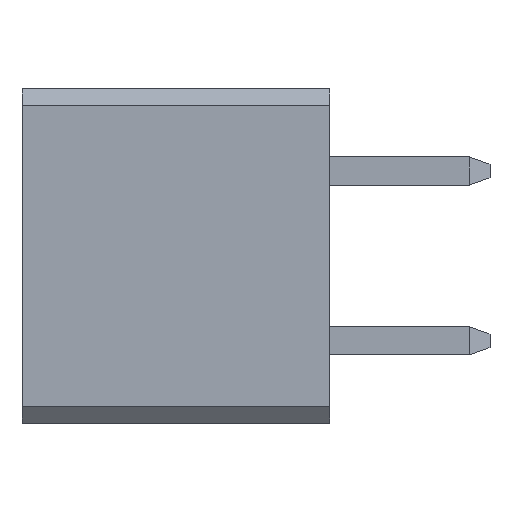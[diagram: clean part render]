
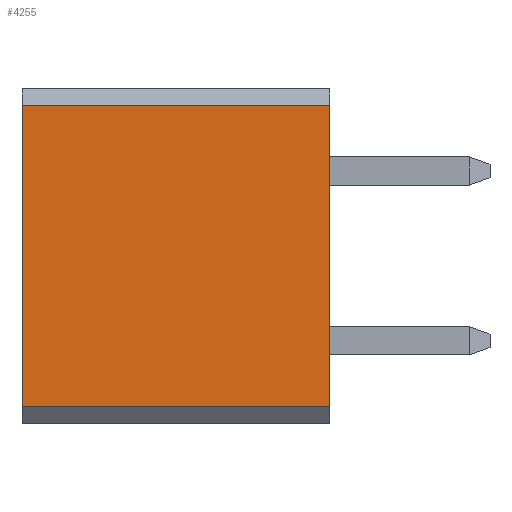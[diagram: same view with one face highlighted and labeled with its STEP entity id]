
A CAD part, left-side view. The second image highlights one B-rep face of the part: STEP entity #4255.
In plain terms, the highlighted planar face has unit normal (-1, 0, 0).
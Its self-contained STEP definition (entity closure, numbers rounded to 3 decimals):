
#2 = CARTESIAN_POINT ( 'NONE',  ( 24.614, 7.525, -2.501 ) ) ;
#31 = VECTOR ( 'NONE', #2021, 1000. ) ;
#125 = PLANE ( 'NONE',  #1885 ) ;
#231 = ORIENTED_EDGE ( 'NONE', *, *, #3540, .F. ) ;
#512 = ORIENTED_EDGE ( 'NONE', *, *, #2442, .T. ) ;
#642 = VERTEX_POINT ( 'NONE', #3342 ) ;
#985 = CARTESIAN_POINT ( 'NONE',  ( 24.614, 7.525, -2.251 ) ) ;
#1012 = LINE ( 'NONE', #2252, #1554 ) ;
#1113 = ORIENTED_EDGE ( 'NONE', *, *, #1498, .F. ) ;
#1131 = LINE ( 'NONE', #4231, #4267 ) ;
#1498 = EDGE_CURVE ( 'NONE', #1535, #1866, #4766, .T. ) ;
#1535 = VERTEX_POINT ( 'NONE', #985 ) ;
#1554 = VECTOR ( 'NONE', #1828, 1000. ) ;
#1720 = VECTOR ( 'NONE', #3107, 1000. ) ;
#1828 = DIRECTION ( 'NONE',  ( 0., 1., 0. ) ) ;
#1866 = VERTEX_POINT ( 'NONE', #3878 ) ;
#1885 = AXIS2_PLACEMENT_3D ( 'NONE', #3494, #2701, #4254 ) ;
#1916 = VERTEX_POINT ( 'NONE', #2445 ) ;
#2021 = DIRECTION ( 'NONE',  ( 0., 0., 1. ) ) ;
#2243 = LINE ( 'NONE', #3892, #1720 ) ;
#2252 = CARTESIAN_POINT ( 'NONE',  ( 24.614, 5.225, -2.251 ) ) ;
#2442 = EDGE_CURVE ( 'NONE', #642, #1916, #1131, .T. ) ;
#2445 = CARTESIAN_POINT ( 'NONE',  ( 24.614, 2.925, 2.251 ) ) ;
#2701 = DIRECTION ( 'NONE',  ( 1., 0., 0. ) ) ;
#3107 = DIRECTION ( 'NONE',  ( 0., -1., 0. ) ) ;
#3265 = EDGE_CURVE ( 'NONE', #642, #1535, #1012, .T. ) ;
#3342 = CARTESIAN_POINT ( 'NONE',  ( 24.614, 2.925, -2.251 ) ) ;
#3493 = DIRECTION ( 'NONE',  ( 0., 0., 1. ) ) ;
#3494 = CARTESIAN_POINT ( 'NONE',  ( 24.614, 2.925, 2.251 ) ) ;
#3540 = EDGE_CURVE ( 'NONE', #1866, #1916, #2243, .T. ) ;
#3547 = EDGE_LOOP ( 'NONE', ( #512, #231, #1113, #4437 ) ) ;
#3706 = FACE_OUTER_BOUND ( 'NONE', #3547, .T. ) ;
#3878 = CARTESIAN_POINT ( 'NONE',  ( 24.614, 7.525, 2.251 ) ) ;
#3892 = CARTESIAN_POINT ( 'NONE',  ( 24.614, 5.225, 2.251 ) ) ;
#4231 = CARTESIAN_POINT ( 'NONE',  ( 24.614, 2.925, 2.251 ) ) ;
#4254 = DIRECTION ( 'NONE',  ( 0., 1., 0. ) ) ;
#4255 = ADVANCED_FACE ( 'NONE', ( #3706 ), #125, .F. ) ;
#4267 = VECTOR ( 'NONE', #3493, 1000. ) ;
#4437 = ORIENTED_EDGE ( 'NONE', *, *, #3265, .F. ) ;
#4766 = LINE ( 'NONE', #2, #31 ) ;
